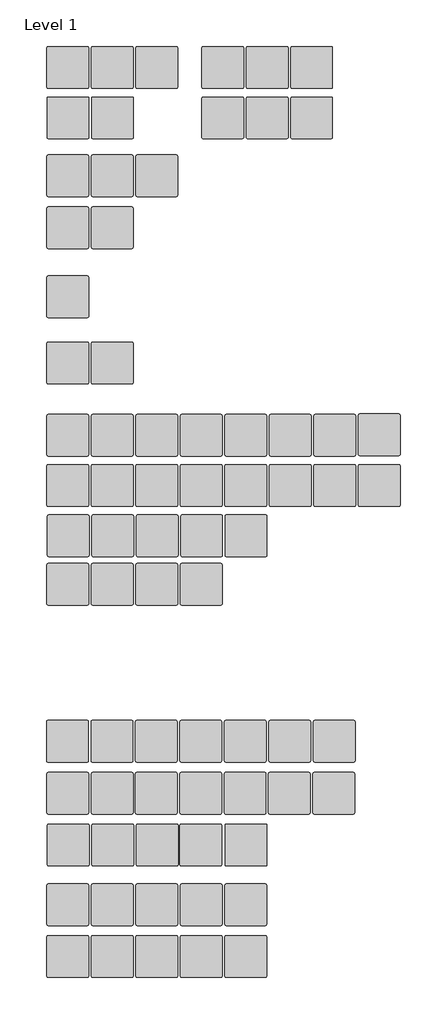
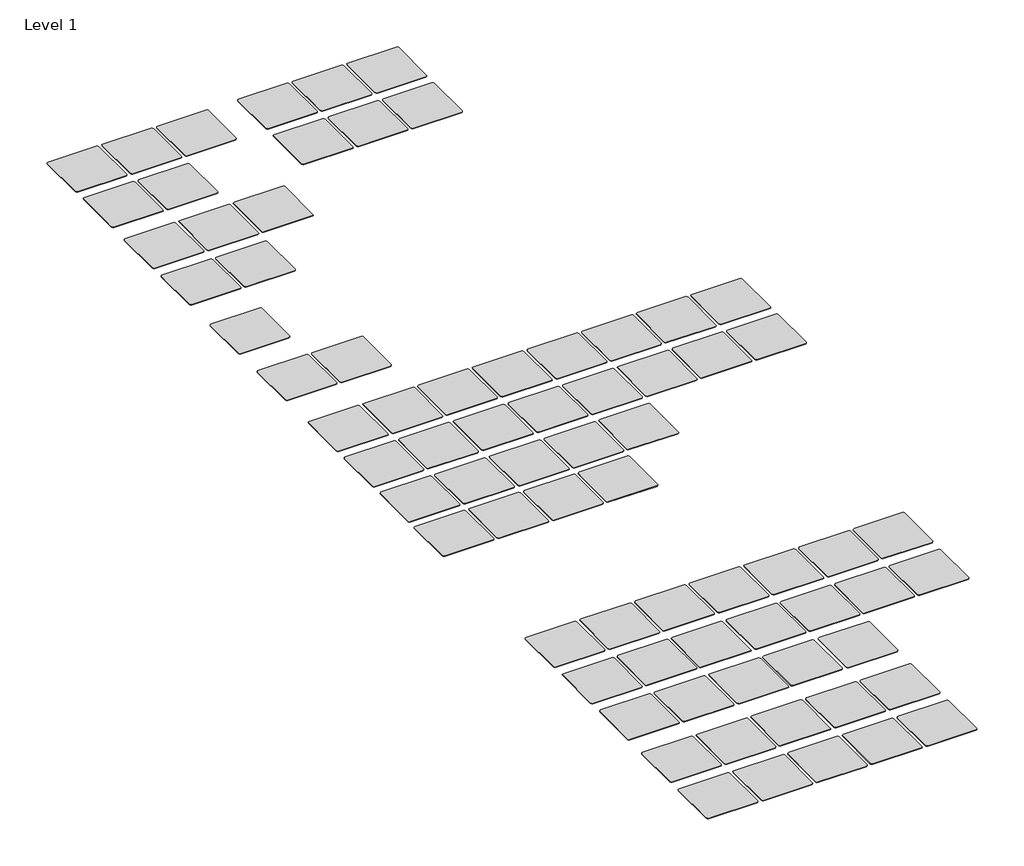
# One storey: 73 proxies.
"""IFC4 building model written with IfcOpenShell, lengths in millimetres."""

from ifc_helpers import new_model, si_unit, origin, place, context, project, spatial, transform, mapped, element, save
from components import materialsample_type_1_aebe469f

model = new_model("IFC4")

# Units and contexts
model_context = context("Model", 3, world=origin())
ifc_project = project(units=[si_unit("LENGTHUNIT", "METRE", prefix="MILLI")], contexts=[model_context])

# Site, building, storey
site = spatial("IfcSite", under=ifc_project)
building = spatial("IfcBuilding", under=site)
storey = spatial("IfcBuildingStorey", under=building, Name="Level 1", Elevation=0.0)

# Proxies
placement = place(None, origin())
materialsample_type_1_shape = materialsample_type_1_aebe469f(model_context)
element("IfcBuildingElementProxy", 1, Name="MaterialSample : Type 1", ObjectType="MaterialSample : Type 1", at=placement, inside=storey, context=model_context, shape_type="MappedRepresentation", body=[
    mapped(materialsample_type_1_shape, transform((-19354.8, 0.0, 0.0), x_axis=(1.0, 0.0, 0.0), y_axis=(0.0, 1.0, 0.0), z_axis=(0.0, 0.0, 1.0))),
])
element("IfcBuildingElementProxy", 2, Name="MaterialSample : Type 1", ObjectType="MaterialSample : Type 1", at=placement, inside=storey, context=model_context, shape_type="MappedRepresentation", body=[
    mapped(materialsample_type_1_shape, transform((-16764.0, 0.0, 0.0), x_axis=(1.0, 0.0, 0.0), y_axis=(0.0, 1.0, 0.0), z_axis=(0.0, 0.0, 1.0))),
])
element("IfcBuildingElementProxy", 3, Name="MaterialSample : Type 1", ObjectType="MaterialSample : Type 1", at=placement, inside=storey, context=model_context, shape_type="MappedRepresentation", body=[
    mapped(materialsample_type_1_shape, transform((-19354.8, -4209.180137, 0.0), x_axis=(1.0, 0.0, 0.0), y_axis=(0.0, 1.0, 0.0), z_axis=(0.0, 0.0, 1.0))),
])
element("IfcBuildingElementProxy", 4, Name="MaterialSample : Type 1", ObjectType="MaterialSample : Type 1", at=placement, inside=storey, context=model_context, shape_type="MappedRepresentation", body=[
    mapped(materialsample_type_1_shape, transform((-16764.0, -4209.180137, 0.0), x_axis=(1.0, 0.0, 0.0), y_axis=(0.0, 1.0, 0.0), z_axis=(0.0, 0.0, 1.0))),
])
element("IfcBuildingElementProxy", 5, Name="MaterialSample : Type 1", ObjectType="MaterialSample : Type 1", at=placement, inside=storey, context=model_context, shape_type="MappedRepresentation", body=[
    mapped(materialsample_type_1_shape, transform((-14173.2, -4209.180137, 0.0), x_axis=(1.0, 0.0, 0.0), y_axis=(0.0, 1.0, 0.0), z_axis=(0.0, 0.0, 1.0))),
])
element("IfcBuildingElementProxy", 6, Name="MaterialSample : Type 1", ObjectType="MaterialSample : Type 1", at=placement, inside=storey, context=model_context, shape_type="MappedRepresentation", body=[
    mapped(materialsample_type_1_shape, transform((-11582.4, -4209.180137, 0.0), x_axis=(1.0, 0.0, 0.0), y_axis=(0.0, 1.0, 0.0), z_axis=(0.0, 0.0, 1.0))),
])
element("IfcBuildingElementProxy", 7, Name="MaterialSample : Type 1", ObjectType="MaterialSample : Type 1", at=placement, inside=storey, context=model_context, shape_type="MappedRepresentation", body=[
    mapped(materialsample_type_1_shape, transform((-14173.2, -7138.379003, 0.0), x_axis=(1.0, 0.0, 0.0), y_axis=(0.0, 1.0, 0.0), z_axis=(0.0, 0.0, 1.0))),
])
element("IfcBuildingElementProxy", 8, Name="MaterialSample : Type 1", ObjectType="MaterialSample : Type 1", at=placement, inside=storey, context=model_context, shape_type="MappedRepresentation", body=[
    mapped(materialsample_type_1_shape, transform((-8991.6, -4209.180137, 0.0), x_axis=(1.0, 0.0, 0.0), y_axis=(0.0, 1.0, 0.0), z_axis=(0.0, 0.0, 1.0))),
])
element("IfcBuildingElementProxy", 9, Name="MaterialSample : Type 1", ObjectType="MaterialSample : Type 1", at=placement, inside=storey, context=model_context, shape_type="MappedRepresentation", body=[
    mapped(materialsample_type_1_shape, transform((-11582.4, -7138.379003, 0.0), x_axis=(1.0, 0.0, 0.0), y_axis=(0.0, 1.0, 0.0), z_axis=(0.0, 0.0, 1.0))),
])
element("IfcBuildingElementProxy", 10, Name="MaterialSample : Type 1", ObjectType="MaterialSample : Type 1", at=placement, inside=storey, context=model_context, shape_type="MappedRepresentation", body=[
    mapped(materialsample_type_1_shape, transform((-1219.2, -7138.379003, 0.0), x_axis=(1.0, 0.0, 0.0), y_axis=(0.0, 1.0, 0.0), z_axis=(0.0, 0.0, 1.0))),
])
element("IfcBuildingElementProxy", 11, Name="MaterialSample : Type 1", ObjectType="MaterialSample : Type 1", at=placement, inside=storey, context=model_context, shape_type="MappedRepresentation", body=[
    mapped(materialsample_type_1_shape, transform((-19354.8, -12896.787603, 0.0), x_axis=(1.0, 0.0, 0.0), y_axis=(0.0, 1.0, 0.0), z_axis=(0.0, 0.0, 1.0))),
])
element("IfcBuildingElementProxy", 12, Name="MaterialSample : Type 1", ObjectType="MaterialSample : Type 1", at=placement, inside=storey, context=model_context, shape_type="MappedRepresentation", body=[
    mapped(materialsample_type_1_shape, transform((-6400.8, -4209.180137, 0.0), x_axis=(1.0, 0.0, 0.0), y_axis=(0.0, 1.0, 0.0), z_axis=(0.0, 0.0, 1.0))),
])
element("IfcBuildingElementProxy", 13, Name="MaterialSample : Type 1", ObjectType="MaterialSample : Type 1", at=placement, inside=storey, context=model_context, shape_type="MappedRepresentation", body=[
    mapped(materialsample_type_1_shape, transform((-8991.6, -7138.379003, 0.0), x_axis=(1.0, 0.0, 0.0), y_axis=(0.0, 1.0, 0.0), z_axis=(0.0, 0.0, 1.0))),
])
element("IfcBuildingElementProxy", 14, Name="MaterialSample : Type 1", ObjectType="MaterialSample : Type 1", at=placement, inside=storey, context=model_context, shape_type="MappedRepresentation", body=[
    mapped(materialsample_type_1_shape, transform((-19354.8, -7138.379003, 0.0), x_axis=(1.0, 0.0, 0.0), y_axis=(0.0, 1.0, 0.0), z_axis=(0.0, 0.0, 1.0))),
])
element("IfcBuildingElementProxy", 15, Name="MaterialSample : Type 1", ObjectType="MaterialSample : Type 1", at=placement, inside=storey, context=model_context, shape_type="MappedRepresentation", body=[
    mapped(materialsample_type_1_shape, transform((-1219.2, -4189.9801358, 0.0), x_axis=(1.0, 0.0, 0.0), y_axis=(0.0, 1.0, 0.0), z_axis=(0.0, 0.0, 1.0))),
])
element("IfcBuildingElementProxy", 16, Name="MaterialSample : Type 1", ObjectType="MaterialSample : Type 1", at=placement, inside=storey, context=model_context, shape_type="MappedRepresentation", body=[
    mapped(materialsample_type_1_shape, transform((-19335.5976, -10067.583203, 0.0), x_axis=(1.0, 0.0, 0.0), y_axis=(0.0, 1.0, 0.0), z_axis=(0.0, 0.0, 1.0))),
])
element("IfcBuildingElementProxy", 17, Name="MaterialSample : Type 1", ObjectType="MaterialSample : Type 1", at=placement, inside=storey, context=model_context, shape_type="MappedRepresentation", body=[
    mapped(materialsample_type_1_shape, transform((-16764.0, -12896.787603, 0.0), x_axis=(1.0, 0.0, 0.0), y_axis=(0.0, 1.0, 0.0), z_axis=(0.0, 0.0, 1.0))),
])
element("IfcBuildingElementProxy", 18, Name="MaterialSample : Type 1", ObjectType="MaterialSample : Type 1", at=placement, inside=storey, context=model_context, shape_type="MappedRepresentation", body=[
    mapped(materialsample_type_1_shape, transform((-16764.0, -7138.379003, 0.0), x_axis=(1.0, 0.0, 0.0), y_axis=(0.0, 1.0, 0.0), z_axis=(0.0, 0.0, 1.0))),
])
element("IfcBuildingElementProxy", 19, Name="MaterialSample : Type 1", ObjectType="MaterialSample : Type 1", at=placement, inside=storey, context=model_context, shape_type="MappedRepresentation", body=[
    mapped(materialsample_type_1_shape, transform((-3810.0, -4209.180137, 0.0), x_axis=(1.0, 0.0, 0.0), y_axis=(0.0, 1.0, 0.0), z_axis=(0.0, 0.0, 1.0))),
])
element("IfcBuildingElementProxy", 20, Name="MaterialSample : Type 1", ObjectType="MaterialSample : Type 1", at=placement, inside=storey, context=model_context, shape_type="MappedRepresentation", body=[
    mapped(materialsample_type_1_shape, transform((-6400.8, -7138.379003, 0.0), x_axis=(1.0, 0.0, 0.0), y_axis=(0.0, 1.0, 0.0), z_axis=(0.0, 0.0, 1.0))),
])
element("IfcBuildingElementProxy", 21, Name="MaterialSample : Type 1", ObjectType="MaterialSample : Type 1", at=placement, inside=storey, context=model_context, shape_type="MappedRepresentation", body=[
    mapped(materialsample_type_1_shape, transform((-11563.1976, -10067.583203, 0.0), x_axis=(1.0, 0.0, 0.0), y_axis=(0.0, 1.0, 0.0), z_axis=(0.0, 0.0, 1.0))),
])
element("IfcBuildingElementProxy", 22, Name="MaterialSample : Type 1", ObjectType="MaterialSample : Type 1", at=placement, inside=storey, context=model_context, shape_type="MappedRepresentation", body=[
    mapped(materialsample_type_1_shape, transform((-14173.2, -12896.787603, 0.0), x_axis=(1.0, 0.0, 0.0), y_axis=(0.0, 1.0, 0.0), z_axis=(0.0, 0.0, 1.0))),
])
element("IfcBuildingElementProxy", 23, Name="MaterialSample : Type 1", ObjectType="MaterialSample : Type 1", at=placement, inside=storey, context=model_context, shape_type="MappedRepresentation", body=[
    mapped(materialsample_type_1_shape, transform((-11582.4, -12896.787603, 0.0), x_axis=(1.0, 0.0, 0.0), y_axis=(0.0, 1.0, 0.0), z_axis=(0.0, 0.0, 1.0))),
])
element("IfcBuildingElementProxy", 24, Name="MaterialSample : Type 1", ObjectType="MaterialSample : Type 1", at=placement, inside=storey, context=model_context, shape_type="MappedRepresentation", body=[
    mapped(materialsample_type_1_shape, transform((-3810.0, -7138.379003, 0.0), x_axis=(1.0, 0.0, 0.0), y_axis=(0.0, 1.0, 0.0), z_axis=(0.0, 0.0, 1.0))),
])
element("IfcBuildingElementProxy", 25, Name="MaterialSample : Type 1", ObjectType="MaterialSample : Type 1", at=placement, inside=storey, context=model_context, shape_type="MappedRepresentation", body=[
    mapped(materialsample_type_1_shape, transform((-8972.3976, -10067.583203, 0.0), x_axis=(1.0, 0.0, 0.0), y_axis=(0.0, 1.0, 0.0), z_axis=(0.0, 0.0, 1.0))),
])
element("IfcBuildingElementProxy", 26, Name="MaterialSample : Type 1", ObjectType="MaterialSample : Type 1", at=placement, inside=storey, context=model_context, shape_type="MappedRepresentation", body=[
    mapped(materialsample_type_1_shape, transform((-16744.7976, -10067.583203, 0.0), x_axis=(1.0, 0.0, 0.0), y_axis=(0.0, 1.0, 0.0), z_axis=(0.0, 0.0, 1.0))),
])
element("IfcBuildingElementProxy", 27, Name="MaterialSample : Type 1", ObjectType="MaterialSample : Type 1", at=placement, inside=storey, context=model_context, shape_type="MappedRepresentation", body=[
    mapped(materialsample_type_1_shape, transform((-14153.9976, -10067.583203, 0.0), x_axis=(1.0, 0.0, 0.0), y_axis=(0.0, 1.0, 0.0), z_axis=(0.0, 0.0, 1.0))),
])
element("IfcBuildingElementProxy", 28, Name="MaterialSample : Type 1", ObjectType="MaterialSample : Type 1", at=placement, inside=storey, context=model_context, shape_type="MappedRepresentation", body=[
    mapped(materialsample_type_1_shape, transform((-19374.0024, -22040.787603, 0.0), x_axis=(1.0, 0.0, 0.0), y_axis=(0.0, 1.0, 0.0), z_axis=(0.0, 0.0, 1.0))),
])
element("IfcBuildingElementProxy", 29, Name="MaterialSample : Type 1", ObjectType="MaterialSample : Type 1", at=placement, inside=storey, context=model_context, shape_type="MappedRepresentation", body=[
    mapped(materialsample_type_1_shape, transform((-9030.0021188, -25059.7018861, 0.0), x_axis=(1.0, 0.0, 0.0), y_axis=(0.0, 1.0, 0.0), z_axis=(0.0, 0.0, 1.0))),
])
element("IfcBuildingElementProxy", 30, Name="MaterialSample : Type 1", ObjectType="MaterialSample : Type 1", at=placement, inside=storey, context=model_context, shape_type="MappedRepresentation", body=[
    mapped(materialsample_type_1_shape, transform((-16783.2024, -22040.787603, 0.0), x_axis=(1.0, 0.0, 0.0), y_axis=(0.0, 1.0, 0.0), z_axis=(0.0, 0.0, 1.0))),
])
element("IfcBuildingElementProxy", 31, Name="MaterialSample : Type 1", ObjectType="MaterialSample : Type 1", at=placement, inside=storey, context=model_context, shape_type="MappedRepresentation", body=[
    mapped(materialsample_type_1_shape, transform((-6458.40466, -25059.7018861, 0.0), x_axis=(1.0, 0.0, 0.0), y_axis=(0.0, 1.0, 0.0), z_axis=(0.0, 0.0, 1.0))),
])
element("IfcBuildingElementProxy", 32, Name="MaterialSample : Type 1", ObjectType="MaterialSample : Type 1", at=placement, inside=storey, context=model_context, shape_type="MappedRepresentation", body=[
    mapped(materialsample_type_1_shape, transform((-11601.5997188, -22040.787603, 0.0), x_axis=(1.0, 0.0, 0.0), y_axis=(0.0, 1.0, 0.0), z_axis=(0.0, 0.0, 1.0))),
])
element("IfcBuildingElementProxy", 33, Name="MaterialSample : Type 1", ObjectType="MaterialSample : Type 1", at=placement, inside=storey, context=model_context, shape_type="MappedRepresentation", body=[
    mapped(materialsample_type_1_shape, transform((-14192.4024, -22040.787603, 0.0), x_axis=(1.0, 0.0, 0.0), y_axis=(0.0, 1.0, 0.0), z_axis=(0.0, 0.0, 1.0))),
])
element("IfcBuildingElementProxy", 34, Name="MaterialSample : Type 1", ObjectType="MaterialSample : Type 1", at=placement, inside=storey, context=model_context, shape_type="MappedRepresentation", body=[
    mapped(materialsample_type_1_shape, transform((-9010.8024, -22040.787603, 0.0), x_axis=(1.0, 0.0, 0.0), y_axis=(0.0, 1.0, 0.0), z_axis=(0.0, 0.0, 1.0))),
])
element("IfcBuildingElementProxy", 35, Name="MaterialSample : Type 1", ObjectType="MaterialSample : Type 1", at=placement, inside=storey, context=model_context, shape_type="MappedRepresentation", body=[
    mapped(materialsample_type_1_shape, transform((-3867.60466, -25059.7018861, 0.0), x_axis=(1.0, 0.0, 0.0), y_axis=(0.0, 1.0, 0.0), z_axis=(0.0, 0.0, 1.0))),
])
element("IfcBuildingElementProxy", 36, Name="MaterialSample : Type 1", ObjectType="MaterialSample : Type 1", at=placement, inside=storey, context=model_context, shape_type="MappedRepresentation", body=[
    mapped(materialsample_type_1_shape, transform((-11601.5997188, -28078.6161693, 0.0), x_axis=(1.0, 0.0, 0.0), y_axis=(0.0, 1.0, 0.0), z_axis=(0.0, 0.0, 1.0))),
])
element("IfcBuildingElementProxy", 37, Name="MaterialSample : Type 1", ObjectType="MaterialSample : Type 1", at=placement, inside=storey, context=model_context, shape_type="MappedRepresentation", body=[
    mapped(materialsample_type_1_shape, transform((-6420.0024, -22040.787603, 0.0), x_axis=(1.0, 0.0, 0.0), y_axis=(0.0, 1.0, 0.0), z_axis=(0.0, 0.0, 1.0))),
])
element("IfcBuildingElementProxy", 38, Name="MaterialSample : Type 1", ObjectType="MaterialSample : Type 1", at=placement, inside=storey, context=model_context, shape_type="MappedRepresentation", body=[
    mapped(materialsample_type_1_shape, transform((-19335.6002812, -28078.6161693, 0.0), x_axis=(1.0, 0.0, 0.0), y_axis=(0.0, 1.0, 0.0), z_axis=(0.0, 0.0, 1.0))),
])
element("IfcBuildingElementProxy", 39, Name="MaterialSample : Type 1", ObjectType="MaterialSample : Type 1", at=placement, inside=storey, context=model_context, shape_type="MappedRepresentation", body=[
    mapped(materialsample_type_1_shape, transform((-3829.2024, -22040.787603, 0.0), x_axis=(1.0, 0.0, 0.0), y_axis=(0.0, 1.0, 0.0), z_axis=(0.0, 0.0, 1.0))),
])
element("IfcBuildingElementProxy", 40, Name="MaterialSample : Type 1", ObjectType="MaterialSample : Type 1", at=placement, inside=storey, context=model_context, shape_type="MappedRepresentation", body=[
    mapped(materialsample_type_1_shape, transform((-16744.8002812, -28078.6161693, 0.0), x_axis=(1.0, 0.0, 0.0), y_axis=(0.0, 1.0, 0.0), z_axis=(0.0, 0.0, 1.0))),
])
element("IfcBuildingElementProxy", 41, Name="MaterialSample : Type 1", ObjectType="MaterialSample : Type 1", at=placement, inside=storey, context=model_context, shape_type="MappedRepresentation", body=[
    mapped(materialsample_type_1_shape, transform((-8972.3949188, -28078.6161693, 0.0), x_axis=(1.0, 0.0, 0.0), y_axis=(0.0, 1.0, 0.0), z_axis=(0.0, 0.0, 1.0))),
])
element("IfcBuildingElementProxy", 42, Name="MaterialSample : Type 1", ObjectType="MaterialSample : Type 1", at=placement, inside=storey, context=model_context, shape_type="MappedRepresentation", body=[
    mapped(materialsample_type_1_shape, transform((-19354.8, -25059.7018861, 0.0), x_axis=(1.0, 0.0, 0.0), y_axis=(0.0, 1.0, 0.0), z_axis=(0.0, 0.0, 1.0))),
])
element("IfcBuildingElementProxy", 43, Name="MaterialSample : Type 1", ObjectType="MaterialSample : Type 1", at=placement, inside=storey, context=model_context, shape_type="MappedRepresentation", body=[
    mapped(materialsample_type_1_shape, transform((-14154.0002812, -28078.6161693, 0.0), x_axis=(1.0, 0.0, 0.0), y_axis=(0.0, 1.0, 0.0), z_axis=(0.0, 0.0, 1.0))),
])
element("IfcBuildingElementProxy", 44, Name="MaterialSample : Type 1", ObjectType="MaterialSample : Type 1", at=placement, inside=storey, context=model_context, shape_type="MappedRepresentation", body=[
    mapped(materialsample_type_1_shape, transform((-16764.0, -25059.7018861, 0.0), x_axis=(1.0, 0.0, 0.0), y_axis=(0.0, 1.0, 0.0), z_axis=(0.0, 0.0, 1.0))),
])
element("IfcBuildingElementProxy", 45, Name="MaterialSample : Type 1", ObjectType="MaterialSample : Type 1", at=placement, inside=storey, context=model_context, shape_type="MappedRepresentation", body=[
    mapped(materialsample_type_1_shape, transform((-14192.3997188, -25059.7018861, 0.0), x_axis=(1.0, 0.0, 0.0), y_axis=(0.0, 1.0, 0.0), z_axis=(0.0, 0.0, 1.0))),
])
element("IfcBuildingElementProxy", 46, Name="MaterialSample : Type 1", ObjectType="MaterialSample : Type 1", at=placement, inside=storey, context=model_context, shape_type="MappedRepresentation", body=[
    mapped(materialsample_type_1_shape, transform((-11601.5997188, -25059.7018861, 0.0), x_axis=(1.0, 0.0, 0.0), y_axis=(0.0, 1.0, 0.0), z_axis=(0.0, 0.0, 1.0))),
])
element("IfcBuildingElementProxy", 47, Name="MaterialSample : Type 1", ObjectType="MaterialSample : Type 1", at=placement, inside=storey, context=model_context, shape_type="MappedRepresentation", body=[
    mapped(materialsample_type_1_shape, transform((-19354.8, 3849.2650779, 0.0), x_axis=(1.0, 0.0, 0.0), y_axis=(0.0, 1.0, 0.0), z_axis=(0.0, 0.0, 1.0))),
])
element("IfcBuildingElementProxy", 48, Name="MaterialSample : Type 1", ObjectType="MaterialSample : Type 1", at=placement, inside=storey, context=model_context, shape_type="MappedRepresentation", body=[
    mapped(materialsample_type_1_shape, transform((-19354.8, 10906.293382, 0.0), x_axis=(1.0, 0.0, 0.0), y_axis=(0.0, 1.0, 0.0), z_axis=(0.0, 0.0, 1.0))),
])
element("IfcBuildingElementProxy", 49, Name="MaterialSample : Type 1", ObjectType="MaterialSample : Type 1", at=placement, inside=storey, context=model_context, shape_type="MappedRepresentation", body=[
    mapped(materialsample_type_1_shape, transform((-16764.0, 10906.293382, 0.0), x_axis=(1.0, 0.0, 0.0), y_axis=(0.0, 1.0, 0.0), z_axis=(0.0, 0.0, 1.0))),
])
element("IfcBuildingElementProxy", 50, Name="MaterialSample : Type 1", ObjectType="MaterialSample : Type 1", at=placement, inside=storey, context=model_context, shape_type="MappedRepresentation", body=[
    mapped(materialsample_type_1_shape, transform((-14173.2, 10906.293382, 0.0), x_axis=(1.0, 0.0, 0.0), y_axis=(0.0, 1.0, 0.0), z_axis=(0.0, 0.0, 1.0))),
])
element("IfcBuildingElementProxy", 51, Name="MaterialSample : Type 1", ObjectType="MaterialSample : Type 1", at=placement, inside=storey, context=model_context, shape_type="MappedRepresentation", body=[
    mapped(materialsample_type_1_shape, transform((-16764.0, 7877.089382, 0.0), x_axis=(1.0, 0.0, 0.0), y_axis=(0.0, 1.0, 0.0), z_axis=(0.0, 0.0, 1.0))),
])
element("IfcBuildingElementProxy", 52, Name="MaterialSample : Type 1", ObjectType="MaterialSample : Type 1", at=placement, inside=storey, context=model_context, shape_type="MappedRepresentation", body=[
    mapped(materialsample_type_1_shape, transform((-19354.8, 7877.089382, 0.0), x_axis=(1.0, 0.0, 0.0), y_axis=(0.0, 1.0, 0.0), z_axis=(0.0, 0.0, 1.0))),
])
element("IfcBuildingElementProxy", 53, Name="MaterialSample : Type 1", ObjectType="MaterialSample : Type 1", at=placement, inside=storey, context=model_context, shape_type="MappedRepresentation", body=[
    mapped(materialsample_type_1_shape, transform((-19354.8, 17213.0970248, 0.0), x_axis=(1.0, 0.0, 0.0), y_axis=(0.0, 1.0, 0.0), z_axis=(0.0, 0.0, 1.0))),
])
element("IfcBuildingElementProxy", 54, Name="MaterialSample : Type 1", ObjectType="MaterialSample : Type 1", at=placement, inside=storey, context=model_context, shape_type="MappedRepresentation", body=[
    mapped(materialsample_type_1_shape, transform((-16764.0, 17213.0970248, 0.0), x_axis=(1.0, 0.0, 0.0), y_axis=(0.0, 1.0, 0.0), z_axis=(0.0, 0.0, 1.0))),
])
element("IfcBuildingElementProxy", 55, Name="MaterialSample : Type 1", ObjectType="MaterialSample : Type 1", at=placement, inside=storey, context=model_context, shape_type="MappedRepresentation", body=[
    mapped(materialsample_type_1_shape, transform((-14173.2, 17213.0970248, 0.0), x_axis=(1.0, 0.0, 0.0), y_axis=(0.0, 1.0, 0.0), z_axis=(0.0, 0.0, 1.0))),
])
element("IfcBuildingElementProxy", 56, Name="MaterialSample : Type 1", ObjectType="MaterialSample : Type 1", at=placement, inside=storey, context=model_context, shape_type="MappedRepresentation", body=[
    mapped(materialsample_type_1_shape, transform((-19341.699362, 14273.7980711, 0.0), x_axis=(1.0, 0.0, 0.0), y_axis=(0.0, 1.0, 0.0), z_axis=(0.0, 0.0, 1.0))),
])
element("IfcBuildingElementProxy", 57, Name="MaterialSample : Type 1", ObjectType="MaterialSample : Type 1", at=placement, inside=storey, context=model_context, shape_type="MappedRepresentation", body=[
    mapped(materialsample_type_1_shape, transform((-16750.899362, 14273.7980711, 0.0), x_axis=(1.0, 0.0, 0.0), y_axis=(0.0, 1.0, 0.0), z_axis=(0.0, 0.0, 1.0))),
])
element("IfcBuildingElementProxy", 58, Name="MaterialSample : Type 1", ObjectType="MaterialSample : Type 1", at=placement, inside=storey, context=model_context, shape_type="MappedRepresentation", body=[
    mapped(materialsample_type_1_shape, transform((-10337.4578305, 17213.0970248, 0.0), x_axis=(1.0, 0.0, 0.0), y_axis=(0.0, 1.0, 0.0), z_axis=(0.0, 0.0, 1.0))),
])
element("IfcBuildingElementProxy", 59, Name="MaterialSample : Type 1", ObjectType="MaterialSample : Type 1", at=placement, inside=storey, context=model_context, shape_type="MappedRepresentation", body=[
    mapped(materialsample_type_1_shape, transform((-10337.4578305, 14273.7980711, 0.0), x_axis=(1.0, 0.0, 0.0), y_axis=(0.0, 1.0, 0.0), z_axis=(0.0, 0.0, 1.0))),
])
element("IfcBuildingElementProxy", 60, Name="MaterialSample : Type 1", ObjectType="MaterialSample : Type 1", at=placement, inside=storey, context=model_context, shape_type="MappedRepresentation", body=[
    mapped(materialsample_type_1_shape, transform((-7746.6578305, 17213.0970248, 0.0), x_axis=(1.0, 0.0, 0.0), y_axis=(0.0, 1.0, 0.0), z_axis=(0.0, 0.0, 1.0))),
])
element("IfcBuildingElementProxy", 61, Name="MaterialSample : Type 1", ObjectType="MaterialSample : Type 1", at=placement, inside=storey, context=model_context, shape_type="MappedRepresentation", body=[
    mapped(materialsample_type_1_shape, transform((-7746.6578305, 14273.7980711, 0.0), x_axis=(1.0, 0.0, 0.0), y_axis=(0.0, 1.0, 0.0), z_axis=(0.0, 0.0, 1.0))),
])
element("IfcBuildingElementProxy", 62, Name="MaterialSample : Type 1", ObjectType="MaterialSample : Type 1", at=placement, inside=storey, context=model_context, shape_type="MappedRepresentation", body=[
    mapped(materialsample_type_1_shape, transform((-5155.8578305, 17213.0970248, 0.0), x_axis=(1.0, 0.0, 0.0), y_axis=(0.0, 1.0, 0.0), z_axis=(0.0, 0.0, 1.0))),
])
element("IfcBuildingElementProxy", 63, Name="MaterialSample : Type 1", ObjectType="MaterialSample : Type 1", at=placement, inside=storey, context=model_context, shape_type="MappedRepresentation", body=[
    mapped(materialsample_type_1_shape, transform((-5155.8578305, 14273.7980711, 0.0), x_axis=(1.0, 0.0, 0.0), y_axis=(0.0, 1.0, 0.0), z_axis=(0.0, 0.0, 1.0))),
])
element("IfcBuildingElementProxy", 64, Name="MaterialSample : Type 1", ObjectType="MaterialSample : Type 1", at=placement, inside=storey, context=model_context, shape_type="MappedRepresentation", body=[
    mapped(materialsample_type_1_shape, transform((-19354.8, -31555.1265675, 0.0), x_axis=(1.0, 0.0, 0.0), y_axis=(0.0, 1.0, 0.0), z_axis=(0.0, 0.0, 1.0))),
])
element("IfcBuildingElementProxy", 65, Name="MaterialSample : Type 1", ObjectType="MaterialSample : Type 1", at=placement, inside=storey, context=model_context, shape_type="MappedRepresentation", body=[
    mapped(materialsample_type_1_shape, transform((-16764.0, -31555.1265675, 0.0), x_axis=(1.0, 0.0, 0.0), y_axis=(0.0, 1.0, 0.0), z_axis=(0.0, 0.0, 1.0))),
])
element("IfcBuildingElementProxy", 66, Name="MaterialSample : Type 1", ObjectType="MaterialSample : Type 1", at=placement, inside=storey, context=model_context, shape_type="MappedRepresentation", body=[
    mapped(materialsample_type_1_shape, transform((-14173.2, -31555.1265675, 0.0), x_axis=(1.0, 0.0, 0.0), y_axis=(0.0, 1.0, 0.0), z_axis=(0.0, 0.0, 1.0))),
])
element("IfcBuildingElementProxy", 67, Name="MaterialSample : Type 1", ObjectType="MaterialSample : Type 1", at=placement, inside=storey, context=model_context, shape_type="MappedRepresentation", body=[
    mapped(materialsample_type_1_shape, transform((-11582.4, -31555.1265675, 0.0), x_axis=(1.0, 0.0, 0.0), y_axis=(0.0, 1.0, 0.0), z_axis=(0.0, 0.0, 1.0))),
])
element("IfcBuildingElementProxy", 68, Name="MaterialSample : Type 1", ObjectType="MaterialSample : Type 1", at=placement, inside=storey, context=model_context, shape_type="MappedRepresentation", body=[
    mapped(materialsample_type_1_shape, transform((-8991.6, -31555.1265675, 0.0), x_axis=(1.0, 0.0, 0.0), y_axis=(0.0, 1.0, 0.0), z_axis=(0.0, 0.0, 1.0))),
])
element("IfcBuildingElementProxy", 69, Name="MaterialSample : Type 1", ObjectType="MaterialSample : Type 1", at=placement, inside=storey, context=model_context, shape_type="MappedRepresentation", body=[
    mapped(materialsample_type_1_shape, transform((-19354.8, -34574.0408507, 0.0), x_axis=(1.0, 0.0, 0.0), y_axis=(0.0, 1.0, 0.0), z_axis=(0.0, 0.0, 1.0))),
])
element("IfcBuildingElementProxy", 70, Name="MaterialSample : Type 1", ObjectType="MaterialSample : Type 1", at=placement, inside=storey, context=model_context, shape_type="MappedRepresentation", body=[
    mapped(materialsample_type_1_shape, transform((-16764.0, -34574.0408507, 0.0), x_axis=(1.0, 0.0, 0.0), y_axis=(0.0, 1.0, 0.0), z_axis=(0.0, 0.0, 1.0))),
])
element("IfcBuildingElementProxy", 71, Name="MaterialSample : Type 1", ObjectType="MaterialSample : Type 1", at=placement, inside=storey, context=model_context, shape_type="MappedRepresentation", body=[
    mapped(materialsample_type_1_shape, transform((-14173.2, -34574.0408507, 0.0), x_axis=(1.0, 0.0, 0.0), y_axis=(0.0, 1.0, 0.0), z_axis=(0.0, 0.0, 1.0))),
])
element("IfcBuildingElementProxy", 72, Name="MaterialSample : Type 1", ObjectType="MaterialSample : Type 1", at=placement, inside=storey, context=model_context, shape_type="MappedRepresentation", body=[
    mapped(materialsample_type_1_shape, transform((-11582.4, -34574.0408507, 0.0), x_axis=(1.0, 0.0, 0.0), y_axis=(0.0, 1.0, 0.0), z_axis=(0.0, 0.0, 1.0))),
])
element("IfcBuildingElementProxy", 73, Name="MaterialSample : Type 1", ObjectType="MaterialSample : Type 1", at=placement, inside=storey, context=model_context, shape_type="MappedRepresentation", body=[
    mapped(materialsample_type_1_shape, transform((-8991.6, -34574.0408507, 0.0), x_axis=(1.0, 0.0, 0.0), y_axis=(0.0, 1.0, 0.0), z_axis=(0.0, 0.0, 1.0))),
])

save(model, "model.ifc")
